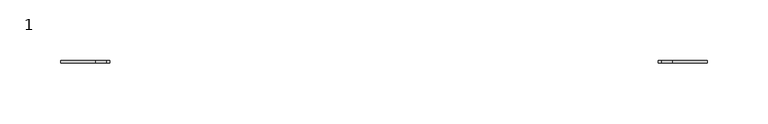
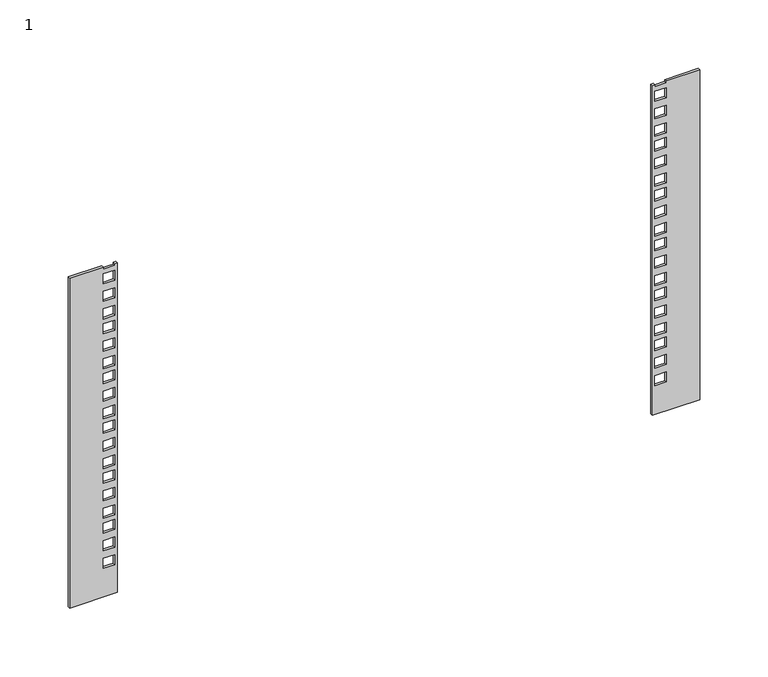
"""IFC4 building model written with IfcOpenShell, lengths in millimetres: proxy geometry, 1 : 6U 450мм стеклянная дверь."""

from ifc_helpers import new_model, si_unit, frame, origin, place, context, project, spatial, polyline, outline, extrude, source, transform, mapped, element, save


def proxy_1_32729e6a(model_context):
    return source(origin(), model_context, "Body", "SweptSolid", [
        extrude(outline(polyline([(20.4675, 225.3), (20.4675, 265.3), (314.4675, 265.3), (314.4675, 237.05), (312.7675, 237.05), (312.7675, 227.55), (314.4675, 227.55), (314.4675, 225.3), (20.4675, 225.3)]), holes=[polyline([(55.0175, 227.55), (55.0175, 237.05), (46.0675, 237.05), (46.0675, 227.55), (55.0175, 227.55)]), polyline([(70.6675, 227.55), (70.6675, 237.05), (61.7175, 237.05), (61.7175, 227.55), (70.6675, 227.55)]), polyline([(86.3175, 227.55), (86.3175, 237.05), (77.3675, 237.05), (77.3675, 227.55), (86.3175, 227.55)]), polyline([(99.4675, 237.05), (90.5175, 237.05), (90.5175, 227.55), (99.4675, 227.55), (99.4675, 237.05)]), polyline([(115.1175, 237.05), (106.1675, 237.05), (106.1675, 227.55), (115.1175, 227.55), (115.1175, 237.05)]), polyline([(130.7675, 237.05), (121.8175, 237.05), (121.8175, 227.55), (130.7675, 227.55), (130.7675, 237.05)]), polyline([(143.9175, 237.05), (134.9675, 237.05), (134.9675, 227.55), (143.9175, 227.55), (143.9175, 237.05)]), polyline([(159.5675, 237.05), (150.6175, 237.05), (150.6175, 227.55), (159.5675, 227.55), (159.5675, 237.05)]), polyline([(175.2175, 237.05), (166.2675, 237.05), (166.2675, 227.55), (175.2175, 227.55), (175.2175, 237.05)]), polyline([(188.3675, 237.05), (179.4175, 237.05), (179.4175, 227.55), (188.3675, 227.55), (188.3675, 237.05)]), polyline([(204.0175, 237.05), (195.0675, 237.05), (195.0675, 227.55), (204.0175, 227.55), (204.0175, 237.05)]), polyline([(219.6675, 237.05), (210.7175, 237.05), (210.7175, 227.55), (219.6675, 227.55), (219.6675, 237.05)]), polyline([(232.8175, 237.05), (223.8675, 237.05), (223.8675, 227.55), (232.8175, 227.55), (232.8175, 237.05)]), polyline([(248.4675, 237.05), (239.5175, 237.05), (239.5175, 227.55), (248.4675, 227.55), (248.4675, 237.05)]), polyline([(264.1175, 237.05), (255.1675, 237.05), (255.1675, 227.55), (264.1175, 227.55), (264.1175, 237.05)]), polyline([(277.2675, 237.05), (268.3175, 237.05), (268.3175, 227.55), (277.2675, 227.55), (277.2675, 237.05)]), polyline([(292.9175, 237.05), (283.9675, 237.05), (283.9675, 227.55), (292.9175, 227.55), (292.9175, 237.05)]), polyline([(308.5675, 237.05), (299.6175, 237.05), (299.6175, 227.55), (308.5675, 227.55), (308.5675, 237.05)])]), frame((0.0, -179.6777479, 0.0), z_axis=(0.0, 1.0, 0.0), x_axis=(0.0, 0.0, 1.0)), (0.0, 0.0, 1.0), 2.0),
        extrude(outline(polyline([(20.4675, -265.7), (20.4675, -225.7), (314.4675, -225.7), (314.4675, -227.95), (312.7675, -227.95), (312.7675, -237.45), (314.4675, -237.45), (314.4675, -265.7), (20.4675, -265.7)]), holes=[polyline([(55.0175, -237.45), (55.0175, -227.95), (46.0675, -227.95), (46.0675, -237.45), (55.0175, -237.45)]), polyline([(70.6675, -237.45), (70.6675, -227.95), (61.7175, -227.95), (61.7175, -237.45), (70.6675, -237.45)]), polyline([(86.3175, -237.45), (86.3175, -227.95), (77.3675, -227.95), (77.3675, -237.45), (86.3175, -237.45)]), polyline([(90.5175, -237.45), (99.4675, -237.45), (99.4675, -227.95), (90.5175, -227.95), (90.5175, -237.45)]), polyline([(106.1675, -237.45), (115.1175, -237.45), (115.1175, -227.95), (106.1675, -227.95), (106.1675, -237.45)]), polyline([(121.8175, -237.45), (130.7675, -237.45), (130.7675, -227.95), (121.8175, -227.95), (121.8175, -237.45)]), polyline([(134.9675, -237.45), (143.9175, -237.45), (143.9175, -227.95), (134.9675, -227.95), (134.9675, -237.45)]), polyline([(150.6175, -237.45), (159.5675, -237.45), (159.5675, -227.95), (150.6175, -227.95), (150.6175, -237.45)]), polyline([(166.2675, -237.45), (175.2175, -237.45), (175.2175, -227.95), (166.2675, -227.95), (166.2675, -237.45)]), polyline([(179.4175, -237.45), (188.3675, -237.45), (188.3675, -227.95), (179.4175, -227.95), (179.4175, -237.45)]), polyline([(195.0675, -237.45), (204.0175, -237.45), (204.0175, -227.95), (195.0675, -227.95), (195.0675, -237.45)]), polyline([(210.7175, -237.45), (219.6675, -237.45), (219.6675, -227.95), (210.7175, -227.95), (210.7175, -237.45)]), polyline([(223.8675, -237.45), (232.8175, -237.45), (232.8175, -227.95), (223.8675, -227.95), (223.8675, -237.45)]), polyline([(239.5175, -237.45), (248.4675, -237.45), (248.4675, -227.95), (239.5175, -227.95), (239.5175, -237.45)]), polyline([(255.1675, -237.45), (264.1175, -237.45), (264.1175, -227.95), (255.1675, -227.95), (255.1675, -237.45)]), polyline([(268.3175, -237.45), (277.2675, -237.45), (277.2675, -227.95), (268.3175, -227.95), (268.3175, -237.45)]), polyline([(283.9675, -237.45), (292.9175, -237.45), (292.9175, -227.95), (283.9675, -227.95), (283.9675, -237.45)]), polyline([(299.6175, -237.45), (308.5675, -237.45), (308.5675, -227.95), (299.6175, -227.95), (299.6175, -237.45)])]), frame((0.0, -179.6777479, 0.0), z_axis=(0.0, 1.0, 0.0), x_axis=(0.0, 0.0, 1.0)), (0.0, 0.0, 1.0), 2.0),
    ])


if __name__ == "__main__":
    model = new_model("IFC4")
    model_context = context("Model", 3, world=origin())
    ifc_project = project(units=[si_unit("LENGTHUNIT", "METRE", prefix="MILLI")], contexts=[model_context])
    site = spatial("IfcSite", under=ifc_project)
    building = spatial("IfcBuilding", under=site)
    placement = place(None, origin())
    proxy_1_shape = proxy_1_32729e6a(model_context)
    element("IfcBuildingElementProxy", 1, Name="1 : 6U 450мм стеклянная дверь", ObjectType="1 : 6U 450мм стеклянная дверь", at=placement, inside=building, context=model_context, shape_type="MappedRepresentation", body=[
        mapped(proxy_1_shape, transform((0.0, 0.0, 0.0), x_axis=(1.0, 0.0, 0.0), y_axis=(0.0, 1.0, 0.0), z_axis=(0.0, 0.0, 1.0))),
    ])
    save(model, "model.ifc")
